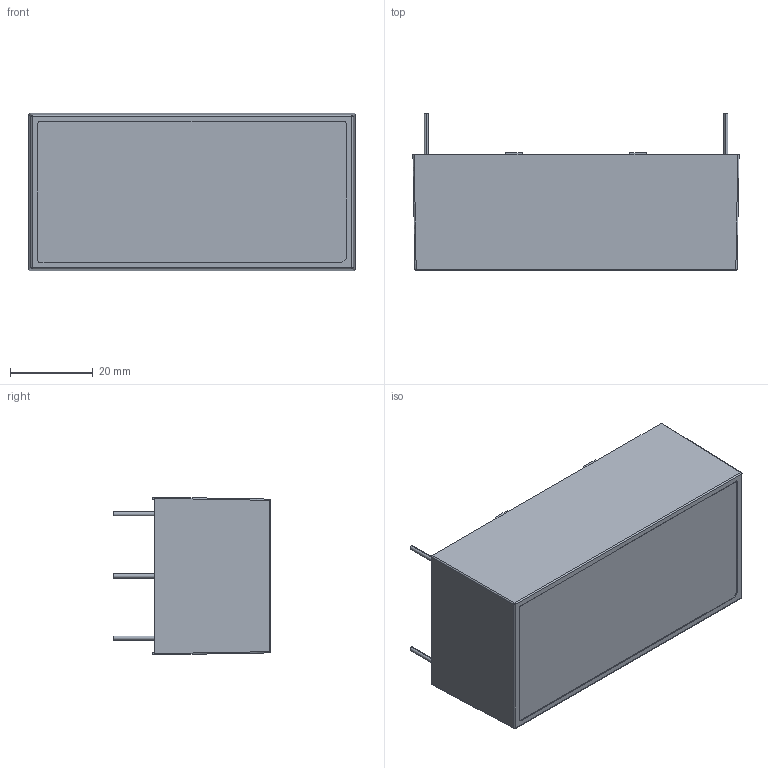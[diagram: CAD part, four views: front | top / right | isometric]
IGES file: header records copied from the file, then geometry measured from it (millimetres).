
Start section: SolidWorks IGES file using analytic representation for surfaces
Global section: file name: C:\Users\ksmith.XPNA\Desktop\EML30\EML30-E\EML30-E XP.IGS; native system: SolidWorks 2014; preprocessor: SolidWorks 2014; author: ksmith; date: 140730.140044; units: inch
Bounding box: 78.74 x 37.95 x 38.1 mm (x, y, z)
Surface area: 32130.7 mm2 (no closed solid volume)
Topology: 0 solids, 0 shells, 255 faces, 2040 edges, 2035 vertices
Faces by surface type: bspline 206, revolution 49
